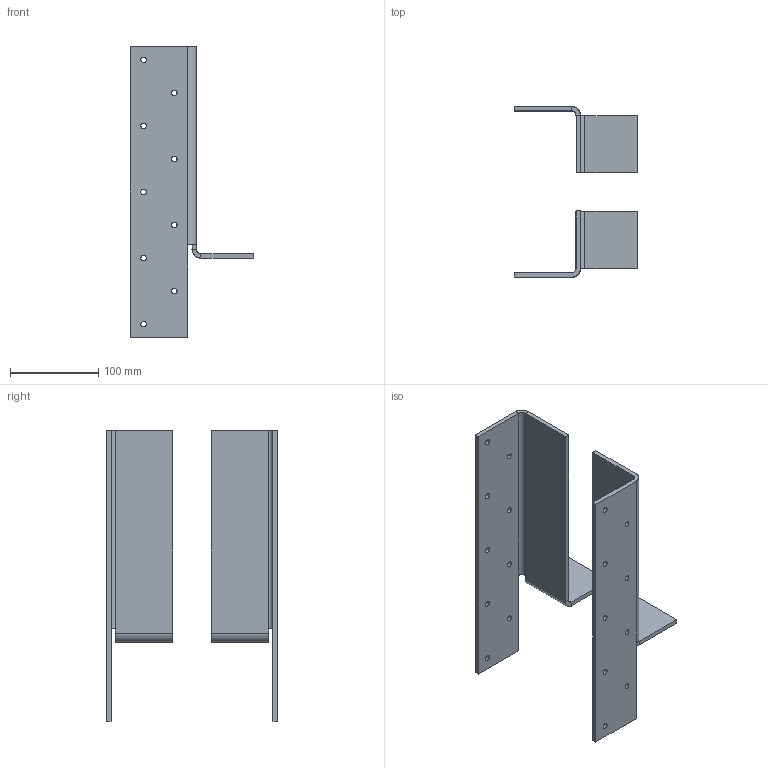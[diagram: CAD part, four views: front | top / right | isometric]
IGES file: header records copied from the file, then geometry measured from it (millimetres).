
Start section: SolidWorks IGES file using analytic representation for surfaces
Global section: file name: C:\Users\cbrechard\Desktop\PE 371 DBR et GBR.IGS; native system: SolidWorks 2017; preprocessor: SolidWorks 2017; author: cbrechard; date: 191023.161802; units: millimetre
Bounding box: 140 x 193.63 x 330 mm (x, y, z)
Surface area: 186503.3 mm2 (no closed solid volume)
Topology: 0 solids, 0 shells, 82 faces, 1604 edges, 1604 vertices
Faces by surface type: revolution 44, bspline 38
